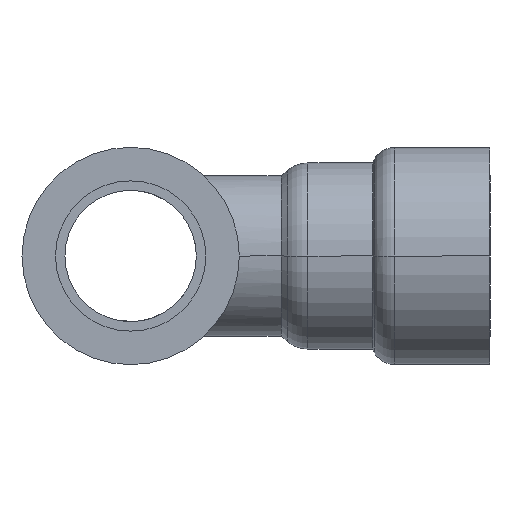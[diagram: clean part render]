
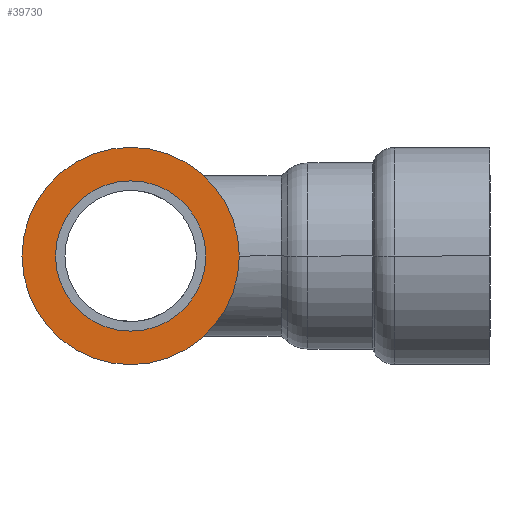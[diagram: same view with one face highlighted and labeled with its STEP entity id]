
A CAD part, left-side view. The second image highlights one B-rep face of the part: STEP entity #39730.
In plain terms, the highlighted planar face has unit normal (-1, 0, 0).
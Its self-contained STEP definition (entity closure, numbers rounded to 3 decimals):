
#11610=CARTESIAN_POINT('',(14.45,62.807,0.));
#11620=VERTEX_POINT('',#11610);
#11650=CARTESIAN_POINT('',(14.45,46.757,0.));
#11660=DIRECTION('',(-1.,0.,0.));
#11670=DIRECTION('',(0.,1.,0.));
#11680=AXIS2_PLACEMENT_3D('',#11650,#11660,#11670);
#11690=CIRCLE('',#11680,16.05);
#11700=CARTESIAN_POINT('',(14.45,30.707,0.));
#11710=VERTEX_POINT('',#11700);
#11720=EDGE_CURVE('',#11620,#11710,#11690,.T.);
#14960=CARTESIAN_POINT('',(14.45,35.657,0.));
#14970=VERTEX_POINT('',#14960);
#15000=CARTESIAN_POINT('',(14.45,46.757,0.));
#15010=DIRECTION('',(1.,0.,0.));
#15020=DIRECTION('',(0.,-1.,0.));
#15030=AXIS2_PLACEMENT_3D('',#15000,#15010,#15020);
#15040=CIRCLE('',#15030,11.1);
#15050=CARTESIAN_POINT('',(14.45,57.857,0.));
#15060=VERTEX_POINT('',#15050);
#15070=EDGE_CURVE('',#14970,#15060,#15040,.T.);
#39580=CARTESIAN_POINT('',(14.45,32.257,0.));
#39590=DIRECTION('',(-1.,0.,0.));
#39600=DIRECTION('',(0.,-1.,0.));
#39610=AXIS2_PLACEMENT_3D('',#39580,#39590,#39600);
#39620=PLANE('',#39610);
#39630=ORIENTED_EDGE('',*,*,#11720,.T.);
#39640=EDGE_CURVE('',#11710,#11620,#11690,.T.);
#39650=ORIENTED_EDGE('',*,*,#39640,.T.);
#39660=EDGE_LOOP('',(#39650,#39630));
#39670=FACE_OUTER_BOUND('',#39660,.T.);
#39680=EDGE_CURVE('',#15060,#14970,#15040,.T.);
#39690=ORIENTED_EDGE('',*,*,#39680,.T.);
#39700=ORIENTED_EDGE('',*,*,#15070,.T.);
#39710=EDGE_LOOP('',(#39700,#39690));
#39720=FACE_BOUND('',#39710,.T.);
#39730=ADVANCED_FACE('',(#39670,#39720),#39620,.T.);
